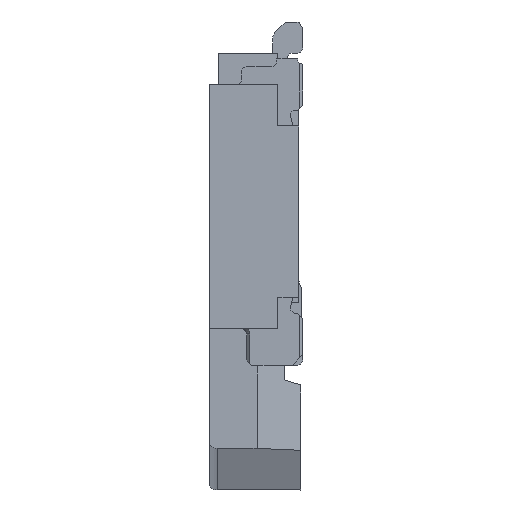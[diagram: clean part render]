
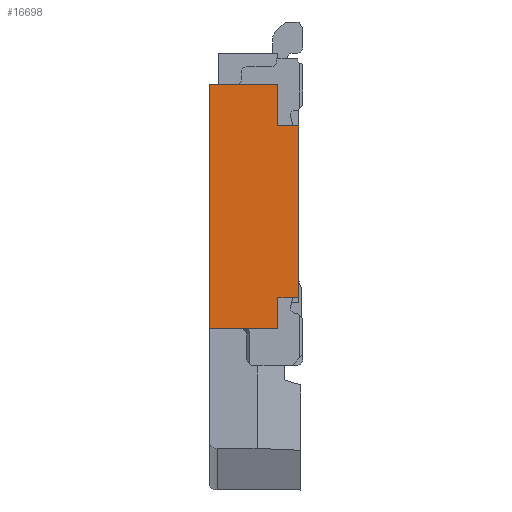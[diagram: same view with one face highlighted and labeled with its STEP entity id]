
A CAD part, left-side view. The second image highlights one B-rep face of the part: STEP entity #16698.
In plain terms, the highlighted planar face has unit normal (-1, 0, 0).
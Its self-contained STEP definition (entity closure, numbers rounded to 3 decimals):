
#650 = VECTOR ( 'NONE', #55721, 1000. ) ;
#2652 = CARTESIAN_POINT ( 'NONE',  ( -11.75, 0.04, -0.6 ) ) ;
#2758 = DIRECTION ( 'NONE',  ( 0., 0., -1. ) ) ;
#2782 = EDGE_CURVE ( 'NONE', #17028, #3847, #34101, .T. ) ;
#3847 = VERTEX_POINT ( 'NONE', #29573 ) ;
#6140 = CARTESIAN_POINT ( 'NONE',  ( -11.75, 0.24, -0.6 ) ) ;
#8916 = DIRECTION ( 'NONE',  ( 0., 1., 0. ) ) ;
#10010 = DIRECTION ( 'NONE',  ( 0., -1., 0. ) ) ;
#10789 = LINE ( 'NONE', #2652, #74633 ) ;
#12820 = EDGE_CURVE ( 'NONE', #3847, #42067, #45379, .T. ) ;
#13523 = VERTEX_POINT ( 'NONE', #28660 ) ;
#13546 = LINE ( 'NONE', #40005, #34026 ) ;
#15284 = LINE ( 'NONE', #6140, #650 ) ;
#16652 = AXIS2_PLACEMENT_3D ( 'NONE', #22568, #23643, #21685 ) ;
#16698 = ADVANCED_FACE ( 'NONE', ( #19577 ), #21778, .F. ) ;
#17028 = VERTEX_POINT ( 'NONE', #68787 ) ;
#19577 = FACE_OUTER_BOUND ( 'NONE', #47617, .T. ) ;
#20305 = CARTESIAN_POINT ( 'NONE',  ( -11.75, 0.04, -2.65 ) ) ;
#21685 = DIRECTION ( 'NONE',  ( 0., 0., -1. ) ) ;
#21778 = PLANE ( 'NONE',  #16652 ) ;
#22568 = CARTESIAN_POINT ( 'NONE',  ( -11.75, 0.04, -0.6 ) ) ;
#23643 = DIRECTION ( 'NONE',  ( 1., 0., 0. ) ) ;
#24610 = VECTOR ( 'NONE', #10010, 1000. ) ;
#26011 = CARTESIAN_POINT ( 'NONE',  ( -11.75, 0.24, -1. ) ) ;
#26077 = VERTEX_POINT ( 'NONE', #26011 ) ;
#26995 = VECTOR ( 'NONE', #46030, 1000. ) ;
#27369 = EDGE_CURVE ( 'NONE', #52015, #50439, #64663, .T. ) ;
#28660 = CARTESIAN_POINT ( 'NONE',  ( -11.75, 0.9, -0.6 ) ) ;
#28974 = EDGE_CURVE ( 'NONE', #50439, #13523, #51893, .T. ) ;
#29573 = CARTESIAN_POINT ( 'NONE',  ( -11.75, 0.04, -2.65 ) ) ;
#31224 = VERTEX_POINT ( 'NONE', #68781 ) ;
#32472 = ORIENTED_EDGE ( 'NONE', *, *, #43524, .F. ) ;
#34026 = VECTOR ( 'NONE', #2758, 1000. ) ;
#34101 = B_SPLINE_CURVE_WITH_KNOTS ( 'NONE', 3,
 ( #60168, #60339, #61127, #60325 ),
 .UNSPECIFIED., .F., .F.,
 ( 4, 4 ),
 ( 0., 1. ),
 .UNSPECIFIED. ) ;
#35149 = EDGE_CURVE ( 'NONE', #31224, #26077, #15284, .T. ) ;
#35792 = CARTESIAN_POINT ( 'NONE',  ( -11.75, 0.04, -2.95 ) ) ;
#35906 = ORIENTED_EDGE ( 'NONE', *, *, #27369, .F. ) ;
#39158 = LINE ( 'NONE', #47176, #24610 ) ;
#40005 = CARTESIAN_POINT ( 'NONE',  ( -11.75, 0.24, -0.6 ) ) ;
#40099 = ORIENTED_EDGE ( 'NONE', *, *, #48681, .F. ) ;
#41714 = CARTESIAN_POINT ( 'NONE',  ( -11.75, 0.9, -4.46 ) ) ;
#42067 = VERTEX_POINT ( 'NONE', #72541 ) ;
#43524 = EDGE_CURVE ( 'NONE', #42067, #52015, #13546, .T. ) ;
#45379 = LINE ( 'NONE', #20305, #26995 ) ;
#46030 = DIRECTION ( 'NONE',  ( 0., 1., 0. ) ) ;
#47176 = CARTESIAN_POINT ( 'NONE',  ( -11.75, 0.04, -1. ) ) ;
#47617 = EDGE_LOOP ( 'NONE', ( #32472, #47967, #51477, #40099, #67465, #73885, #79174, #35906 ) ) ;
#47887 = DIRECTION ( 'NONE',  ( 0., 0., 1. ) ) ;
#47967 = ORIENTED_EDGE ( 'NONE', *, *, #12820, .F. ) ;
#48681 = EDGE_CURVE ( 'NONE', #26077, #17028, #39158, .T. ) ;
#48933 = CARTESIAN_POINT ( 'NONE',  ( -11.75, 0.9, -2.95 ) ) ;
#49963 = VECTOR ( 'NONE', #47887, 1000. ) ;
#50439 = VERTEX_POINT ( 'NONE', #48933 ) ;
#51477 = ORIENTED_EDGE ( 'NONE', *, *, #2782, .F. ) ;
#51893 = LINE ( 'NONE', #41714, #49963 ) ;
#52015 = VERTEX_POINT ( 'NONE', #54595 ) ;
#52110 = VECTOR ( 'NONE', #78882, 1000. ) ;
#54595 = CARTESIAN_POINT ( 'NONE',  ( -11.75, 0.24, -2.95 ) ) ;
#55721 = DIRECTION ( 'NONE',  ( 0., 0., -1. ) ) ;
#60168 = CARTESIAN_POINT ( 'NONE',  ( -11.75, 0.04, -1. ) ) ;
#60325 = CARTESIAN_POINT ( 'NONE',  ( -11.75, 0.04, -2.65 ) ) ;
#60339 = CARTESIAN_POINT ( 'NONE',  ( -11.75, 0.04, -1.55 ) ) ;
#61127 = CARTESIAN_POINT ( 'NONE',  ( -11.75, 0.04, -2.1 ) ) ;
#64663 = LINE ( 'NONE', #35792, #52110 ) ;
#67465 = ORIENTED_EDGE ( 'NONE', *, *, #35149, .F. ) ;
#68781 = CARTESIAN_POINT ( 'NONE',  ( -11.75, 0.24, -0.6 ) ) ;
#68787 = CARTESIAN_POINT ( 'NONE',  ( -11.75, 0.04, -1. ) ) ;
#70892 = EDGE_CURVE ( 'NONE', #31224, #13523, #10789, .T. ) ;
#72541 = CARTESIAN_POINT ( 'NONE',  ( -11.75, 0.24, -2.65 ) ) ;
#73885 = ORIENTED_EDGE ( 'NONE', *, *, #70892, .T. ) ;
#74633 = VECTOR ( 'NONE', #8916, 1000. ) ;
#78882 = DIRECTION ( 'NONE',  ( 0., 1., 0. ) ) ;
#79174 = ORIENTED_EDGE ( 'NONE', *, *, #28974, .F. ) ;
